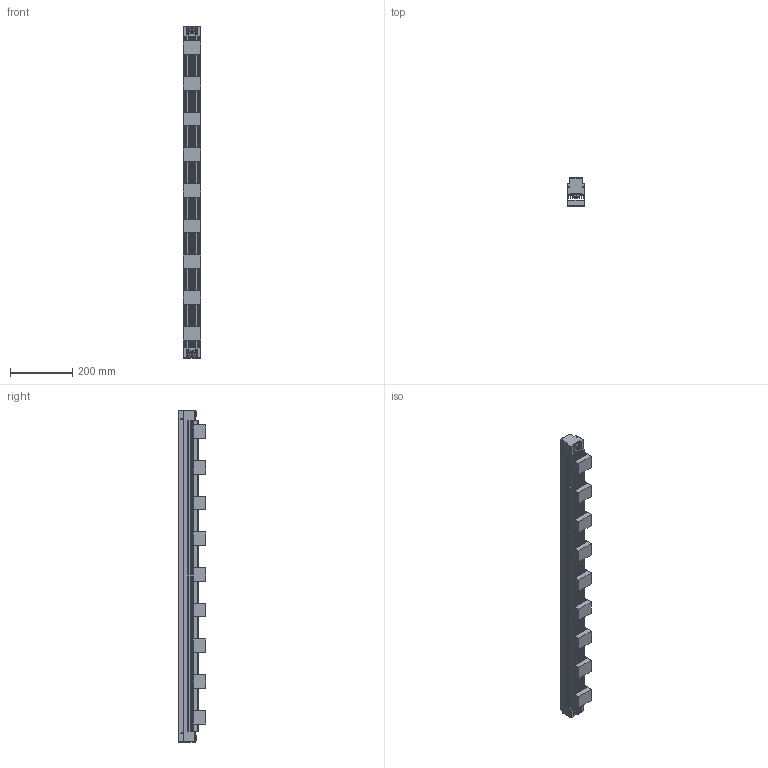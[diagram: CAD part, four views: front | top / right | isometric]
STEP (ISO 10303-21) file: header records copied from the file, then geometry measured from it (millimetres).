
FILE_DESCRIPTION((''),'2;1');
FILE_NAME('MV-LTHS-1000-W','2019-09-19T',('win7'),(''),'PRO/ENGINEER BY PARAMETRIC TECHNOLOGY CORPORATION, 2010100','PRO/ENGINEER BY PARAMETRIC TECHNOLOGY CORPORATION, 2010100','');
FILE_SCHEMA(('CONFIG_CONTROL_DESIGN'));
Length unit declared in the file: millimetre
Products named in the file (1): MV-LTHS-1000-W
Bounding box: 58 x 90.1 x 1070 mm (x, y, z)
Volume: 3532982.1 mm3; surface area: 570767.5 mm2
Topology: 1 solids, 10 shells, 465 faces, 1234 edges, 769 vertices
Faces by surface type: plane 330, cylinder 105, cone 30
Entity records: 14066 total; most frequent: CARTESIAN_POINT 2452, DIRECTION 2378, ORIENTED_EDGE 2376, EDGE_CURVE 1208, VECTOR 968, LINE 968, VERTEX_POINT 769, AXIS2_PLACEMENT_3D 705
